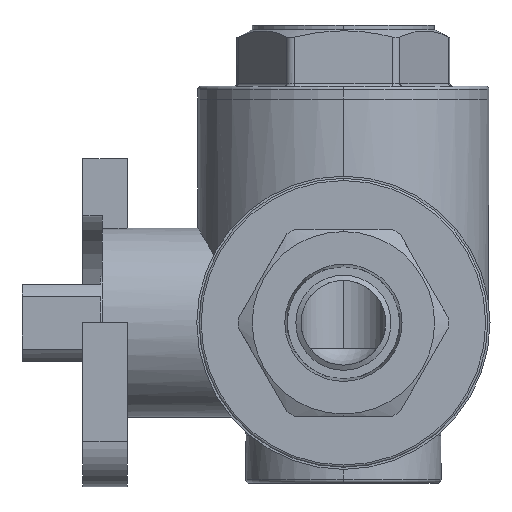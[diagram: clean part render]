
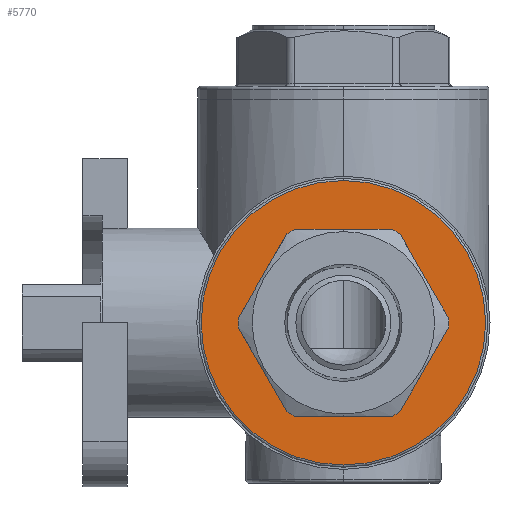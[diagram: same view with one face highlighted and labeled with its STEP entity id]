
A CAD part, left-side view. The second image highlights one B-rep face of the part: STEP entity #5770.
In plain terms, the highlighted planar face has unit normal (-1, 0, 0).
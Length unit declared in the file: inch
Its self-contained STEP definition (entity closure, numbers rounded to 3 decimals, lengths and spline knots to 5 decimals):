
#58 = CARTESIAN_POINT ( 'NONE',  ( -1.015, -0.22462, 0.42985 ) ) ;
#108 = CARTESIAN_POINT ( 'NONE',  ( -1.015, 0., 0.655 ) ) ;
#264 = DIRECTION ( 'NONE',  ( -1., 0., 0. ) ) ;
#276 = VERTEX_POINT ( 'NONE', #3985 ) ;
#341 = AXIS2_PLACEMENT_3D ( 'NONE', #7938, #6913, #2934 ) ;
#352 = CIRCLE ( 'NONE', #5179, 0.655 ) ;
#389 = ORIENTED_EDGE ( 'NONE', *, *, #8301, .T. ) ;
#396 = ORIENTED_EDGE ( 'NONE', *, *, #1364, .T. ) ;
#412 = DIRECTION ( 'NONE',  ( -1., 0., 0. ) ) ;
#589 = LINE ( 'NONE', #6439, #7392 ) ;
#625 = CARTESIAN_POINT ( 'NONE',  ( -1.015, 0., 0. ) ) ;
#636 = CIRCLE ( 'NONE', #3072, 0.485 ) ;
#667 = CARTESIAN_POINT ( 'NONE',  ( -1.015, 0.22462, -0.42985 ) ) ;
#717 = DIRECTION ( 'NONE',  ( 0., 0.499, 0.866 ) ) ;
#725 = PLANE ( 'NONE',  #341 ) ;
#836 = CIRCLE ( 'NONE', #1442, 0.485 ) ;
#860 = EDGE_CURVE ( 'NONE', #3678, #6576, #5965, .T. ) ;
#895 = VECTOR ( 'NONE', #1239, 39.37008 ) ;
#905 = VECTOR ( 'NONE', #5715, 39.37008 ) ;
#1008 = VERTEX_POINT ( 'NONE', #6745 ) ;
#1212 = VERTEX_POINT ( 'NONE', #5601 ) ;
#1235 = ORIENTED_EDGE ( 'NONE', *, *, #860, .T. ) ;
#1239 = DIRECTION ( 'NONE',  ( 0., -0.499, -0.866 ) ) ;
#1274 = DIRECTION ( 'NONE',  ( 0., 0., 1. ) ) ;
#1364 = EDGE_CURVE ( 'NONE', #2831, #1008, #5952, .T. ) ;
#1410 = EDGE_CURVE ( 'NONE', #6975, #276, #7487, .T. ) ;
#1442 = AXIS2_PLACEMENT_3D ( 'NONE', #1961, #6577, #2612 ) ;
#1519 = ORIENTED_EDGE ( 'NONE', *, *, #3798, .F. ) ;
#1574 = EDGE_CURVE ( 'NONE', #3678, #1008, #5336, .T. ) ;
#1623 = CARTESIAN_POINT ( 'NONE',  ( -1.015, 0.48454, 0.02104 ) ) ;
#1639 = VERTEX_POINT ( 'NONE', #667 ) ;
#1661 = AXIS2_PLACEMENT_3D ( 'NONE', #5636, #3064, #5744 ) ;
#1943 = CARTESIAN_POINT ( 'NONE',  ( -1.015, -0.25995, -0.40945 ) ) ;
#1961 = CARTESIAN_POINT ( 'NONE',  ( -1.015, 0., 0. ) ) ;
#2146 = ORIENTED_EDGE ( 'NONE', *, *, #4363, .T. ) ;
#2150 = CARTESIAN_POINT ( 'NONE',  ( -1.015, 0.48457, -0.0204 ) ) ;
#2174 = CARTESIAN_POINT ( 'NONE',  ( -1.015, 0.22405, 0.43015 ) ) ;
#2198 = DIRECTION ( 'NONE',  ( -1., 0., 0. ) ) ;
#2345 = ORIENTED_EDGE ( 'NONE', *, *, #1410, .F. ) ;
#2378 = VERTEX_POINT ( 'NONE', #108 ) ;
#2445 = EDGE_CURVE ( 'NONE', #2378, #1212, #352, .T. ) ;
#2612 = DIRECTION ( 'NONE',  ( 0., 0., 1. ) ) ;
#2743 = VERTEX_POINT ( 'NONE', #7009 ) ;
#2760 = ORIENTED_EDGE ( 'NONE', *, *, #7344, .T. ) ;
#2831 = VERTEX_POINT ( 'NONE', #4487 ) ;
#2906 = DIRECTION ( 'NONE',  ( -1., 0., 0. ) ) ;
#2934 = DIRECTION ( 'NONE',  ( 0., 0., -1. ) ) ;
#3064 = DIRECTION ( 'NONE',  ( -1., 0., 0. ) ) ;
#3072 = AXIS2_PLACEMENT_3D ( 'NONE', #625, #5246, #1274 ) ;
#3175 = CARTESIAN_POINT ( 'NONE',  ( -1.015, -0.24854, 0.42984 ) ) ;
#3438 = DIRECTION ( 'NONE',  ( 0., 0., 1. ) ) ;
#3467 = DIRECTION ( 'NONE',  ( -1., 0., 0. ) ) ;
#3678 = VERTEX_POINT ( 'NONE', #6380 ) ;
#3694 = FACE_OUTER_BOUND ( 'NONE', #7588, .T. ) ;
#3700 = ORIENTED_EDGE ( 'NONE', *, *, #1574, .F. ) ;
#3798 = EDGE_CURVE ( 'NONE', #5471, #1639, #636, .T. ) ;
#3985 = CARTESIAN_POINT ( 'NONE',  ( -1.015, 0.25995, 0.40945 ) ) ;
#4035 = CARTESIAN_POINT ( 'NONE',  ( -1.015, 0.24798, 0.43016 ) ) ;
#4130 = CARTESIAN_POINT ( 'NONE',  ( -1.015, 0., 0. ) ) ;
#4146 = LINE ( 'NONE', #4035, #7422 ) ;
#4239 = CARTESIAN_POINT ( 'NONE',  ( -1.015, 0., 0. ) ) ;
#4338 = EDGE_CURVE ( 'NONE', #2743, #6576, #836, .T. ) ;
#4363 = EDGE_CURVE ( 'NONE', #6975, #4926, #4146, .T. ) ;
#4373 = CARTESIAN_POINT ( 'NONE',  ( -1.015, 0., 0. ) ) ;
#4487 = CARTESIAN_POINT ( 'NONE',  ( -1.015, -0.26049, 0.40911 ) ) ;
#4526 = CIRCLE ( 'NONE', #6805, 0.655 ) ;
#4662 = ORIENTED_EDGE ( 'NONE', *, *, #4338, .F. ) ;
#4686 = CARTESIAN_POINT ( 'NONE',  ( -1.015, 0.24854, -0.42984 ) ) ;
#4705 = DIRECTION ( 'NONE',  ( 0., -1., -0.001 ) ) ;
#4891 = DIRECTION ( 'NONE',  ( 0., 0., 1. ) ) ;
#4926 = VERTEX_POINT ( 'NONE', #58 ) ;
#4956 = AXIS2_PLACEMENT_3D ( 'NONE', #4130, #3467, #3438 ) ;
#4961 = ORIENTED_EDGE ( 'NONE', *, *, #5448, .F. ) ;
#5041 = DIRECTION ( 'NONE',  ( 0., 0., 1. ) ) ;
#5085 = EDGE_CURVE ( 'NONE', #2831, #4926, #7416, .T. ) ;
#5105 = AXIS2_PLACEMENT_3D ( 'NONE', #6168, #2198, #6822 ) ;
#5133 = LINE ( 'NONE', #5268, #8187 ) ;
#5172 = ORIENTED_EDGE ( 'NONE', *, *, #6278, .T. ) ;
#5179 = AXIS2_PLACEMENT_3D ( 'NONE', #4373, #412, #5041 ) ;
#5246 = DIRECTION ( 'NONE',  ( -1., 0., 0. ) ) ;
#5268 = CARTESIAN_POINT ( 'NONE',  ( -1.015, 0.49652, 0.00033 ) ) ;
#5336 = CIRCLE ( 'NONE', #1661, 0.485 ) ;
#5448 = EDGE_CURVE ( 'NONE', #5768, #7507, #7108, .T. ) ;
#5471 = VERTEX_POINT ( 'NONE', #6241 ) ;
#5474 = FACE_BOUND ( 'NONE', #8294, .T. ) ;
#5552 = AXIS2_PLACEMENT_3D ( 'NONE', #6885, #2906, #7542 ) ;
#5595 = CARTESIAN_POINT ( 'NONE',  ( -1.015, -0.49652, -0.00033 ) ) ;
#5601 = CARTESIAN_POINT ( 'NONE',  ( -1.015, 0., -0.655 ) ) ;
#5636 = CARTESIAN_POINT ( 'NONE',  ( -1.015, 0., 0. ) ) ;
#5715 = DIRECTION ( 'NONE',  ( 0., 0.501, -0.866 ) ) ;
#5744 = DIRECTION ( 'NONE',  ( 0., 0., 1. ) ) ;
#5768 = VERTEX_POINT ( 'NONE', #1623 ) ;
#5770 = ADVANCED_FACE ( 'NONE', ( #5474, #3694 ), #725, .F. ) ;
#5870 = ORIENTED_EDGE ( 'NONE', *, *, #8188, .T. ) ;
#5910 = DIRECTION ( 'NONE',  ( 0., -0.501, 0.866 ) ) ;
#5952 = LINE ( 'NONE', #3175, #895 ) ;
#5965 = LINE ( 'NONE', #5595, #905 ) ;
#6081 = ORIENTED_EDGE ( 'NONE', *, *, #5085, .F. ) ;
#6168 = CARTESIAN_POINT ( 'NONE',  ( -1.015, 0., 0. ) ) ;
#6241 = CARTESIAN_POINT ( 'NONE',  ( -1.015, 0.26049, -0.40911 ) ) ;
#6278 = EDGE_CURVE ( 'NONE', #1212, #2378, #4526, .T. ) ;
#6380 = CARTESIAN_POINT ( 'NONE',  ( -1.015, -0.48454, -0.02104 ) ) ;
#6439 = CARTESIAN_POINT ( 'NONE',  ( -1.015, -0.24798, -0.43016 ) ) ;
#6576 = VERTEX_POINT ( 'NONE', #1943 ) ;
#6577 = DIRECTION ( 'NONE',  ( -1., 0., 0. ) ) ;
#6745 = CARTESIAN_POINT ( 'NONE',  ( -1.015, -0.48457, 0.0204 ) ) ;
#6762 = VECTOR ( 'NONE', #717, 39.37008 ) ;
#6805 = AXIS2_PLACEMENT_3D ( 'NONE', #4239, #264, #4891 ) ;
#6822 = DIRECTION ( 'NONE',  ( 0., 0., 1. ) ) ;
#6885 = CARTESIAN_POINT ( 'NONE',  ( -1.015, 0., 0. ) ) ;
#6913 = DIRECTION ( 'NONE',  ( 1., 0., 0. ) ) ;
#6975 = VERTEX_POINT ( 'NONE', #2174 ) ;
#7009 = CARTESIAN_POINT ( 'NONE',  ( -1.015, -0.22405, -0.43015 ) ) ;
#7108 = CIRCLE ( 'NONE', #5552, 0.485 ) ;
#7329 = ORIENTED_EDGE ( 'NONE', *, *, #2445, .T. ) ;
#7344 = EDGE_CURVE ( 'NONE', #5768, #276, #5133, .T. ) ;
#7392 = VECTOR ( 'NONE', #8419, 39.37008 ) ;
#7416 = CIRCLE ( 'NONE', #5105, 0.485 ) ;
#7422 = VECTOR ( 'NONE', #4705, 39.37008 ) ;
#7487 = CIRCLE ( 'NONE', #4956, 0.485 ) ;
#7507 = VERTEX_POINT ( 'NONE', #2150 ) ;
#7542 = DIRECTION ( 'NONE',  ( 0., 0., 1. ) ) ;
#7588 = EDGE_LOOP ( 'NONE', ( #7329, #5172 ) ) ;
#7938 = CARTESIAN_POINT ( 'NONE',  ( -1.015, 0.655, 0. ) ) ;
#8187 = VECTOR ( 'NONE', #5910, 39.37008 ) ;
#8188 = EDGE_CURVE ( 'NONE', #2743, #1639, #589, .T. ) ;
#8294 = EDGE_LOOP ( 'NONE', ( #4961, #2760, #2345, #2146, #6081, #396, #3700, #1235, #4662, #5870, #1519, #389 ) ) ;
#8301 = EDGE_CURVE ( 'NONE', #5471, #7507, #8506, .T. ) ;
#8419 = DIRECTION ( 'NONE',  ( 0., 1., 0.001 ) ) ;
#8506 = LINE ( 'NONE', #4686, #6762 ) ;
